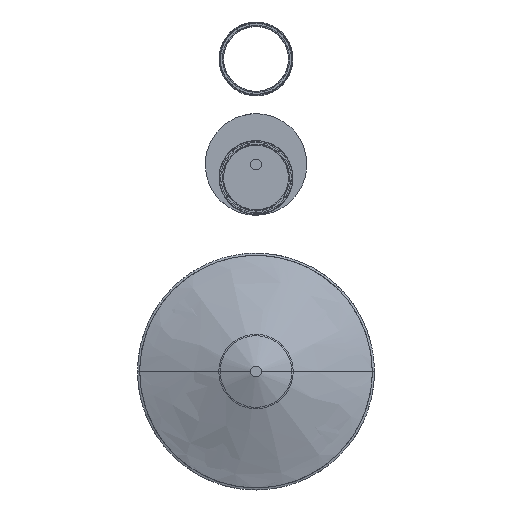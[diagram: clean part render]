
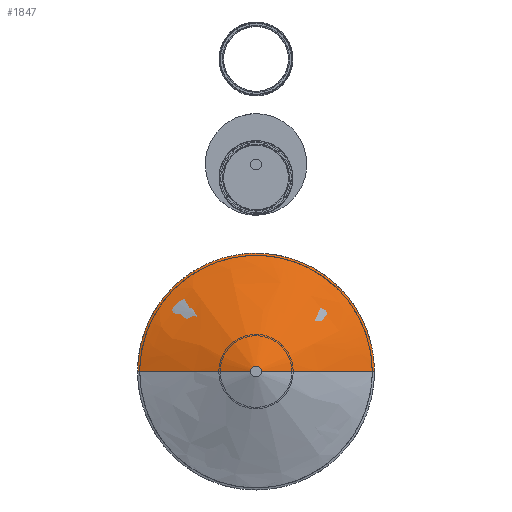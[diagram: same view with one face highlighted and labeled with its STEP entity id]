
A CAD part, top view. The second image highlights one B-rep face of the part: STEP entity #1847.
In plain terms, the highlighted free-form (B-spline) face has degree [2, 2] with [5, 11] control points.
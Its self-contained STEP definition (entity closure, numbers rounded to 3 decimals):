
#461=(
BOUNDED_SURFACE()
B_SPLINE_SURFACE(2,2,((#29881,#29882,#29883,#29884,#29885,#29886,#29887,
#29888,#29889,#29890,#29891),(#29892,#29893,#29894,#29895,#29896,#29897,
#29898,#29899,#29900,#29901,#29902),(#29903,#29904,#29905,#29906,#29907,
#29908,#29909,#29910,#29911,#29912,#29913),(#29914,#29915,#29916,#29917,
#29918,#29919,#29920,#29921,#29922,#29923,#29924),(#29925,#29926,#29927,
#29928,#29929,#29930,#29931,#29932,#29933,#29934,#29935)),.UNSPECIFIED.,
 .F.,.F.,.F.)
B_SPLINE_SURFACE_WITH_KNOTS((3,2,3),(3,2,2,2,2,3),(0.,273.53,
547.059),(414.26,415.26,417.93,420.6,
422.677,599.205),.UNSPECIFIED.)
GEOMETRIC_REPRESENTATION_ITEM()
RATIONAL_B_SPLINE_SURFACE(((1.,0.957,1.,0.707,1.,
0.707,1.,0.819,1.,1.,1.),(0.707,0.677,
0.707,0.5,0.707,0.5,0.707,0.579,
0.707,0.707,0.707),(1.,0.957,
1.,0.707,1.,0.707,1.,0.819,1.,1.,1.),
(0.707,0.677,0.707,0.5,0.707,
0.5,0.707,0.579,0.707,0.707,
0.707),(1.,0.957,1.,0.707,1.,0.707,
1.,0.819,1.,1.,1.)))
REPRESENTATION_ITEM('')
SURFACE()
);
#1847=ADVANCED_FACE('',(#2606),#461,.T.);
#2606=FACE_OUTER_BOUND('',#3591,.T.);
#3591=EDGE_LOOP('',(#7188,#7189,#7190,#7191));
#7188=ORIENTED_EDGE('',*,*,#9029,.T.);
#7189=ORIENTED_EDGE('',*,*,#9022,.F.);
#7190=ORIENTED_EDGE('',*,*,#9020,.F.);
#7191=ORIENTED_EDGE('',*,*,#9021,.T.);
#9020=EDGE_CURVE('',#10753,#10752,#12265,.T.);
#9021=EDGE_CURVE('',#10753,#10756,#12266,.T.);
#9022=EDGE_CURVE('',#10752,#10757,#12267,.T.);
#9029=EDGE_CURVE('',#10756,#10757,#12274,.T.);
#10752=VERTEX_POINT('',#30008);
#10753=VERTEX_POINT('',#30009);
#10756=VERTEX_POINT('',#30012);
#10757=VERTEX_POINT('',#30013);
#12265=(
BOUNDED_CURVE()
B_SPLINE_CURVE(2,(#30014,#30015,#30016,#30017,#30018,#30019,#30020,#30021,
#30022,#30023,#30024),.UNSPECIFIED.,.F.,.F.)
B_SPLINE_CURVE_WITH_KNOTS((3,2,2,2,2,3),(414.26,415.26,
417.93,420.6,422.677,599.205),
 .UNSPECIFIED.)
CURVE()
GEOMETRIC_REPRESENTATION_ITEM()
RATIONAL_B_SPLINE_CURVE((1.,0.957,1.,0.707,1.,0.707,
1.,0.819,1.,1.,1.))
REPRESENTATION_ITEM('')
);
#12266=(
BOUNDED_CURVE()
B_SPLINE_CURVE(2,(#30025,#30026,#30027,#30028,#30029),.UNSPECIFIED.,.F.,
 .F.)
B_SPLINE_CURVE_WITH_KNOTS((3,2,3),(0.,273.53,547.059),
 .UNSPECIFIED.)
CURVE()
GEOMETRIC_REPRESENTATION_ITEM()
RATIONAL_B_SPLINE_CURVE((1.,0.707,1.,0.707,1.))
REPRESENTATION_ITEM('')
);
#12267=(
BOUNDED_CURVE()
B_SPLINE_CURVE(2,(#30030,#30031,#30032,#30033,#30034),.UNSPECIFIED.,.F.,
 .F.)
B_SPLINE_CURVE_WITH_KNOTS((3,2,3),(0.,273.53,547.059),
 .UNSPECIFIED.)
CURVE()
GEOMETRIC_REPRESENTATION_ITEM()
RATIONAL_B_SPLINE_CURVE((1.,0.707,1.,0.707,1.))
REPRESENTATION_ITEM('')
);
#12274=(
BOUNDED_CURVE()
B_SPLINE_CURVE(2,(#30058,#30059,#30060,#30061,#30062,#30063,#30064,#30065,
#30066,#30067,#30068),.UNSPECIFIED.,.F.,.F.)
B_SPLINE_CURVE_WITH_KNOTS((3,2,2,2,2,3),(414.26,415.26,
417.93,420.6,422.677,599.205),
 .UNSPECIFIED.)
CURVE()
GEOMETRIC_REPRESENTATION_ITEM()
RATIONAL_B_SPLINE_CURVE((1.,0.957,1.,0.707,1.,0.707,
1.,0.819,1.,1.,1.))
REPRESENTATION_ITEM('')
);
#29881=CARTESIAN_POINT('',(171.936,0.,1172.128));
#29882=CARTESIAN_POINT('',(171.6,0.,1171.615));
#29883=CARTESIAN_POINT('',(171.6,0.,1171.1));
#29884=CARTESIAN_POINT('',(171.6,0.,1169.4));
#29885=CARTESIAN_POINT('',(173.3,0.,1169.4));
#29886=CARTESIAN_POINT('',(175.,0.,1169.4));
#29887=CARTESIAN_POINT('',(175.,0.,1171.1));
#29888=CARTESIAN_POINT('',(175.,0.,1172.29));
#29889=CARTESIAN_POINT('',(173.881,0.,1172.697));
#29890=CARTESIAN_POINT('',(90.941,0.,1202.885));
#29891=CARTESIAN_POINT('',(8.,0.,1233.073));
#29892=CARTESIAN_POINT('',(171.936,171.936,1172.128));
#29893=CARTESIAN_POINT('',(171.6,171.6,1171.615));
#29894=CARTESIAN_POINT('',(171.6,171.6,1171.1));
#29895=CARTESIAN_POINT('',(171.6,171.6,1169.4));
#29896=CARTESIAN_POINT('',(173.3,173.3,1169.4));
#29897=CARTESIAN_POINT('',(175.,175.,1169.4));
#29898=CARTESIAN_POINT('',(175.,175.,1171.1));
#29899=CARTESIAN_POINT('',(175.,175.,1172.29));
#29900=CARTESIAN_POINT('',(173.881,173.881,1172.697));
#29901=CARTESIAN_POINT('',(90.941,90.941,1202.885));
#29902=CARTESIAN_POINT('',(8.,8.,1233.073));
#29903=CARTESIAN_POINT('',(0.,171.936,1172.128));
#29904=CARTESIAN_POINT('',(0.,171.6,1171.615));
#29905=CARTESIAN_POINT('',(0.,171.6,1171.1));
#29906=CARTESIAN_POINT('',(0.,171.6,1169.4));
#29907=CARTESIAN_POINT('',(0.,173.3,1169.4));
#29908=CARTESIAN_POINT('',(0.,175.,1169.4));
#29909=CARTESIAN_POINT('',(0.,175.,1171.1));
#29910=CARTESIAN_POINT('',(0.,175.,1172.29));
#29911=CARTESIAN_POINT('',(0.,173.881,1172.697));
#29912=CARTESIAN_POINT('',(0.,90.941,1202.885));
#29913=CARTESIAN_POINT('',(0.,8.,1233.073));
#29914=CARTESIAN_POINT('',(-171.936,171.936,1172.128));
#29915=CARTESIAN_POINT('',(-171.6,171.6,1171.615));
#29916=CARTESIAN_POINT('',(-171.6,171.6,1171.1));
#29917=CARTESIAN_POINT('',(-171.6,171.6,1169.4));
#29918=CARTESIAN_POINT('',(-173.3,173.3,1169.4));
#29919=CARTESIAN_POINT('',(-175.,175.,1169.4));
#29920=CARTESIAN_POINT('',(-175.,175.,1171.1));
#29921=CARTESIAN_POINT('',(-175.,175.,1172.29));
#29922=CARTESIAN_POINT('',(-173.881,173.881,1172.697));
#29923=CARTESIAN_POINT('',(-90.941,90.941,1202.885));
#29924=CARTESIAN_POINT('',(-8.,8.,1233.073));
#29925=CARTESIAN_POINT('',(-171.936,0.,1172.128));
#29926=CARTESIAN_POINT('',(-171.6,0.,1171.615));
#29927=CARTESIAN_POINT('',(-171.6,0.,1171.1));
#29928=CARTESIAN_POINT('',(-171.6,0.,1169.4));
#29929=CARTESIAN_POINT('',(-173.3,0.,1169.4));
#29930=CARTESIAN_POINT('',(-175.,0.,1169.4));
#29931=CARTESIAN_POINT('',(-175.,0.,1171.1));
#29932=CARTESIAN_POINT('',(-175.,0.,1172.29));
#29933=CARTESIAN_POINT('',(-173.881,0.,1172.697));
#29934=CARTESIAN_POINT('',(-90.941,0.,1202.885));
#29935=CARTESIAN_POINT('',(-8.,0.,1233.073));
#30008=CARTESIAN_POINT('',(8.,0.,1233.073));
#30009=CARTESIAN_POINT('',(171.936,0.,1172.128));
#30012=CARTESIAN_POINT('',(-171.936,0.,1172.128));
#30013=CARTESIAN_POINT('',(-8.,0.,1233.073));
#30014=CARTESIAN_POINT('',(171.936,0.,1172.128));
#30015=CARTESIAN_POINT('',(171.6,0.,1171.615));
#30016=CARTESIAN_POINT('',(171.6,0.,1171.1));
#30017=CARTESIAN_POINT('',(171.6,0.,1169.4));
#30018=CARTESIAN_POINT('',(173.3,0.,1169.4));
#30019=CARTESIAN_POINT('',(175.,0.,1169.4));
#30020=CARTESIAN_POINT('',(175.,0.,1171.1));
#30021=CARTESIAN_POINT('',(175.,0.,1172.29));
#30022=CARTESIAN_POINT('',(173.881,0.,1172.697));
#30023=CARTESIAN_POINT('',(90.941,0.,1202.885));
#30024=CARTESIAN_POINT('',(8.,0.,1233.073));
#30025=CARTESIAN_POINT('',(171.936,0.,1172.128));
#30026=CARTESIAN_POINT('',(171.936,171.936,1172.128));
#30027=CARTESIAN_POINT('',(0.,171.936,1172.128));
#30028=CARTESIAN_POINT('',(-171.936,171.936,1172.128));
#30029=CARTESIAN_POINT('',(-171.936,0.,1172.128));
#30030=CARTESIAN_POINT('',(8.,0.,1233.073));
#30031=CARTESIAN_POINT('',(8.,8.,1233.073));
#30032=CARTESIAN_POINT('',(0.,8.,1233.073));
#30033=CARTESIAN_POINT('',(-8.,8.,1233.073));
#30034=CARTESIAN_POINT('',(-8.,0.,1233.073));
#30058=CARTESIAN_POINT('',(-171.936,0.,1172.128));
#30059=CARTESIAN_POINT('',(-171.6,0.,1171.615));
#30060=CARTESIAN_POINT('',(-171.6,0.,1171.1));
#30061=CARTESIAN_POINT('',(-171.6,0.,1169.4));
#30062=CARTESIAN_POINT('',(-173.3,0.,1169.4));
#30063=CARTESIAN_POINT('',(-175.,0.,1169.4));
#30064=CARTESIAN_POINT('',(-175.,0.,1171.1));
#30065=CARTESIAN_POINT('',(-175.,0.,1172.29));
#30066=CARTESIAN_POINT('',(-173.881,0.,1172.697));
#30067=CARTESIAN_POINT('',(-90.941,0.,1202.885));
#30068=CARTESIAN_POINT('',(-8.,0.,1233.073));
